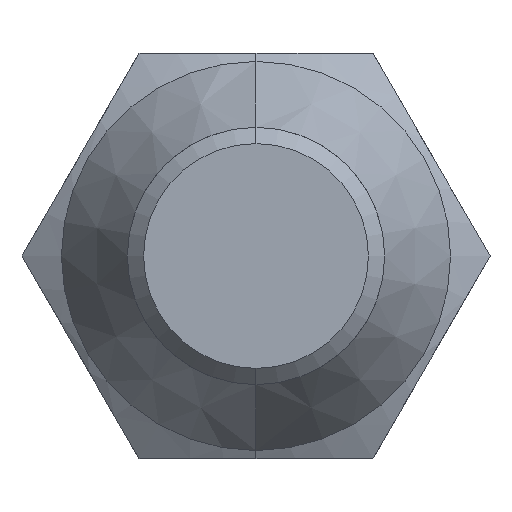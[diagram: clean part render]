
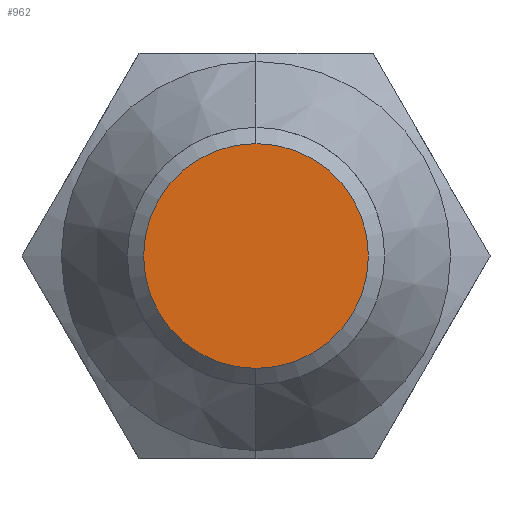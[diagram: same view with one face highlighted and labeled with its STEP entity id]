
A CAD part, left-side view. The second image highlights one B-rep face of the part: STEP entity #962.
In plain terms, the highlighted planar face has unit normal (-1, 0, 0).
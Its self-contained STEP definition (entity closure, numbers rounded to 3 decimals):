
#12 = AXIS2_PLACEMENT_3D ( 'NONE', #1246, #802, #594 ) ;
#100 = DIRECTION ( 'NONE',  ( 0., 0., 1. ) ) ;
#101 = DIRECTION ( 'NONE',  ( -1., 0., 0. ) ) ;
#104 = PLANE ( 'NONE',  #133 ) ;
#126 = CARTESIAN_POINT ( 'NONE',  ( 0., 0., 0. ) ) ;
#133 = AXIS2_PLACEMENT_3D ( 'NONE', #126, #101, #100 ) ;
#264 = CARTESIAN_POINT ( 'NONE',  ( 0., 0., -6.935 ) ) ;
#269 = ORIENTED_EDGE ( 'NONE', *, *, #1159, .T. ) ;
#312 = CIRCLE ( 'NONE', #12, 6.935 ) ;
#456 = ORIENTED_EDGE ( 'NONE', *, *, #1315, .T. ) ;
#594 = DIRECTION ( 'NONE',  ( 0., 0., 1. ) ) ;
#752 = CARTESIAN_POINT ( 'NONE',  ( 0., 0., 6.935 ) ) ;
#753 = FACE_OUTER_BOUND ( 'NONE', #1220, .T. ) ;
#802 = DIRECTION ( 'NONE',  ( -1., 0., 0. ) ) ;
#856 = CIRCLE ( 'NONE', #863, 6.935 ) ;
#863 = AXIS2_PLACEMENT_3D ( 'NONE', #1298, #1181, #1164 ) ;
#886 = VERTEX_POINT ( 'NONE', #264 ) ;
#962 = ADVANCED_FACE ( 'NONE', ( #753 ), #104, .T. ) ;
#1159 = EDGE_CURVE ( 'NONE', #886, #1398, #312, .T. ) ;
#1164 = DIRECTION ( 'NONE',  ( 0., 0., 1. ) ) ;
#1181 = DIRECTION ( 'NONE',  ( -1., 0., 0. ) ) ;
#1220 = EDGE_LOOP ( 'NONE', ( #269, #456 ) ) ;
#1246 = CARTESIAN_POINT ( 'NONE',  ( 0., 0., 0. ) ) ;
#1298 = CARTESIAN_POINT ( 'NONE',  ( 0., 0., 0. ) ) ;
#1315 = EDGE_CURVE ( 'NONE', #1398, #886, #856, .T. ) ;
#1398 = VERTEX_POINT ( 'NONE', #752 ) ;
